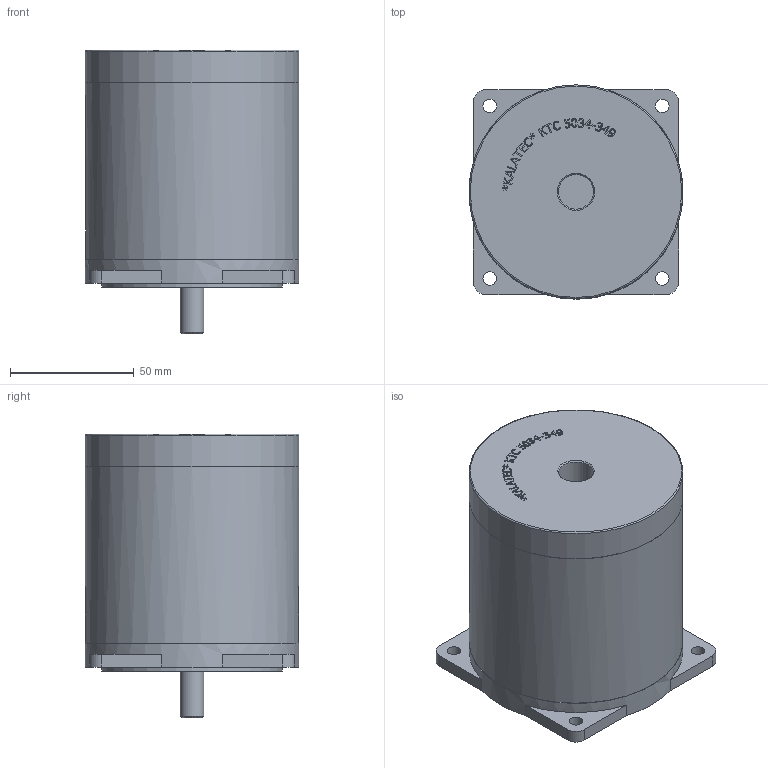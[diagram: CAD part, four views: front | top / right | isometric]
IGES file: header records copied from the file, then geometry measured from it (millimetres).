
Global section: file name: No Iges File Name specified; native system: Autodesk Inventor 2012; preprocessor: AutoDesk Inventor Iges Exporter R2012; author: Sergio Martins; date: 20121015.162050; units: millimetre
Bounding box: 86.3 x 86.3 x 114.45 mm (x, y, z)
Volume: 558353.2 mm3; surface area: 41856.2 mm2
Topology: 1 solids, 1 shells, 363 faces, 989 edges, 658 vertices
Faces by surface type: plane 226, bspline 114, revolution 11, cylinder 9, cone 2, torus 1
Full cylindrical faces by diameter (mm): 9.52 x1, 73 x1, 86 x1, 86.3 x2
